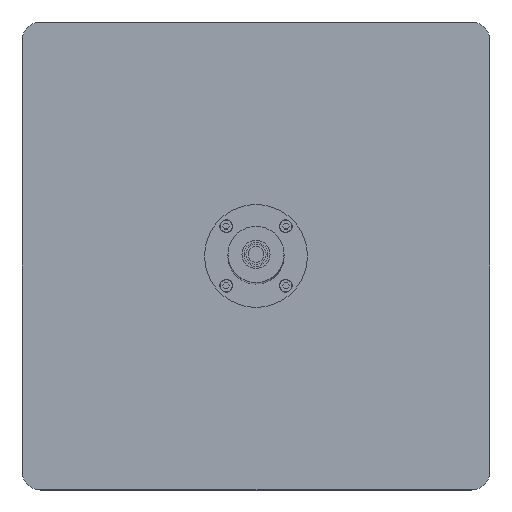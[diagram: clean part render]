
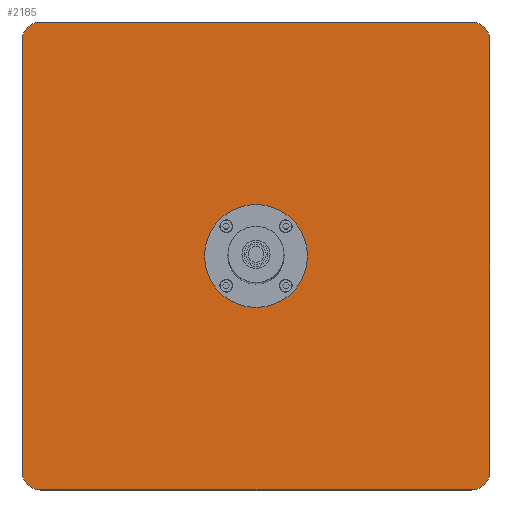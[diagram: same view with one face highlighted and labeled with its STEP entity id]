
A CAD part, top view. The second image highlights one B-rep face of the part: STEP entity #2185.
In plain terms, the highlighted planar face has unit normal (0, 0, 1).
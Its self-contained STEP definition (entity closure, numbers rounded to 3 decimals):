
#2069 = EDGE_CURVE('',#2070,#2072,#2074,.T.);
#2070 = VERTEX_POINT('',#2071);
#2071 = CARTESIAN_POINT('',(694.,-230.,-705.));
#2072 = VERTEX_POINT('',#2073);
#2073 = CARTESIAN_POINT('',(694.,230.,-705.));
#2074 = SURFACE_CURVE('',#2075,(#2079,#2091),.PCURVE_S1.);
#2075 = LINE('',#2076,#2077);
#2076 = CARTESIAN_POINT('',(694.,-250.,-705.));
#2077 = VECTOR('',#2078,1.);
#2078 = DIRECTION('',(0.,1.,0.));
#2079 = PCURVE('',#2080,#2085);
#2080 = PLANE('',#2081);
#2081 = AXIS2_PLACEMENT_3D('',#2082,#2083,#2084);
#2082 = CARTESIAN_POINT('',(694.,-250.,-720.));
#2083 = DIRECTION('',(1.,0.,0.));
#2084 = DIRECTION('',(0.,0.,1.));
#2085 = DEFINITIONAL_REPRESENTATION('',(#2086),#2090);
#2086 = LINE('',#2087,#2088);
#2087 = CARTESIAN_POINT('',(15.,0.));
#2088 = VECTOR('',#2089,1.);
#2089 = DIRECTION('',(0.,-1.));
#2090 = ( GEOMETRIC_REPRESENTATION_CONTEXT(2) 
PARAMETRIC_REPRESENTATION_CONTEXT() REPRESENTATION_CONTEXT('2D SPACE',''
  ) );
#2091 = PCURVE('',#2092,#2097);
#2092 = PLANE('',#2093);
#2093 = AXIS2_PLACEMENT_3D('',#2094,#2095,#2096);
#2094 = CARTESIAN_POINT('',(694.,-250.,-705.));
#2095 = DIRECTION('',(0.,0.,1.));
#2096 = DIRECTION('',(1.,0.,0.));
#2097 = DEFINITIONAL_REPRESENTATION('',(#2098),#2102);
#2098 = LINE('',#2099,#2100);
#2099 = CARTESIAN_POINT('',(0.,0.));
#2100 = VECTOR('',#2101,1.);
#2101 = DIRECTION('',(0.,1.));
#2102 = ( GEOMETRIC_REPRESENTATION_CONTEXT(2) 
PARAMETRIC_REPRESENTATION_CONTEXT() REPRESENTATION_CONTEXT('2D SPACE',''
  ) );
#2120 = CYLINDRICAL_SURFACE('',#2121,20.);
#2121 = AXIS2_PLACEMENT_3D('',#2122,#2123,#2124);
#2122 = CARTESIAN_POINT('',(714.,-230.,-720.));
#2123 = DIRECTION('',(0.,0.,1.));
#2124 = DIRECTION('',(-1.,-0.,0.));
#2174 = CYLINDRICAL_SURFACE('',#2175,20.);
#2175 = AXIS2_PLACEMENT_3D('',#2176,#2177,#2178);
#2176 = CARTESIAN_POINT('',(714.,230.,-720.));
#2177 = DIRECTION('',(0.,0.,1.));
#2178 = DIRECTION('',(-1.,-0.,0.));
#2185 = ADVANCED_FACE('',(#2186),#2092,.T.);
#2186 = FACE_BOUND('',#2187,.T.);
#2187 = EDGE_LOOP('',(#2188,#2189,#2213,#2241,#2274,#2302,#2331,#2359));
#2188 = ORIENTED_EDGE('',*,*,#2069,.F.);
#2189 = ORIENTED_EDGE('',*,*,#2190,.T.);
#2190 = EDGE_CURVE('',#2070,#2191,#2193,.T.);
#2191 = VERTEX_POINT('',#2192);
#2192 = CARTESIAN_POINT('',(714.,-250.,-705.));
#2193 = SURFACE_CURVE('',#2194,(#2199,#2206),.PCURVE_S1.);
#2194 = CIRCLE('',#2195,20.);
#2195 = AXIS2_PLACEMENT_3D('',#2196,#2197,#2198);
#2196 = CARTESIAN_POINT('',(714.,-230.,-705.));
#2197 = DIRECTION('',(0.,0.,1.));
#2198 = DIRECTION('',(0.,-1.,0.));
#2199 = PCURVE('',#2092,#2200);
#2200 = DEFINITIONAL_REPRESENTATION('',(#2201),#2205);
#2201 = CIRCLE('',#2202,20.);
#2202 = AXIS2_PLACEMENT_2D('',#2203,#2204);
#2203 = CARTESIAN_POINT('',(20.,20.));
#2204 = DIRECTION('',(0.,-1.));
#2205 = ( GEOMETRIC_REPRESENTATION_CONTEXT(2) 
PARAMETRIC_REPRESENTATION_CONTEXT() REPRESENTATION_CONTEXT('2D SPACE',''
  ) );
#2206 = PCURVE('',#2120,#2207);
#2207 = DEFINITIONAL_REPRESENTATION('',(#2208),#2212);
#2208 = LINE('',#2209,#2210);
#2209 = CARTESIAN_POINT('',(-4.712,15.));
#2210 = VECTOR('',#2211,1.);
#2211 = DIRECTION('',(1.,0.));
#2212 = ( GEOMETRIC_REPRESENTATION_CONTEXT(2) 
PARAMETRIC_REPRESENTATION_CONTEXT() REPRESENTATION_CONTEXT('2D SPACE',''
  ) );
#2213 = ORIENTED_EDGE('',*,*,#2214,.T.);
#2214 = EDGE_CURVE('',#2191,#2215,#2217,.T.);
#2215 = VERTEX_POINT('',#2216);
#2216 = CARTESIAN_POINT('',(1174.,-250.,-705.));
#2217 = SURFACE_CURVE('',#2218,(#2222,#2229),.PCURVE_S1.);
#2218 = LINE('',#2219,#2220);
#2219 = CARTESIAN_POINT('',(694.,-250.,-705.));
#2220 = VECTOR('',#2221,1.);
#2221 = DIRECTION('',(1.,0.,0.));
#2222 = PCURVE('',#2092,#2223);
#2223 = DEFINITIONAL_REPRESENTATION('',(#2224),#2228);
#2224 = LINE('',#2225,#2226);
#2225 = CARTESIAN_POINT('',(0.,0.));
#2226 = VECTOR('',#2227,1.);
#2227 = DIRECTION('',(1.,0.));
#2228 = ( GEOMETRIC_REPRESENTATION_CONTEXT(2) 
PARAMETRIC_REPRESENTATION_CONTEXT() REPRESENTATION_CONTEXT('2D SPACE',''
  ) );
#2229 = PCURVE('',#2230,#2235);
#2230 = PLANE('',#2231);
#2231 = AXIS2_PLACEMENT_3D('',#2232,#2233,#2234);
#2232 = CARTESIAN_POINT('',(694.,-250.,-720.));
#2233 = DIRECTION('',(0.,1.,0.));
#2234 = DIRECTION('',(0.,0.,1.));
#2235 = DEFINITIONAL_REPRESENTATION('',(#2236),#2240);
#2236 = LINE('',#2237,#2238);
#2237 = CARTESIAN_POINT('',(15.,0.));
#2238 = VECTOR('',#2239,1.);
#2239 = DIRECTION('',(0.,1.));
#2240 = ( GEOMETRIC_REPRESENTATION_CONTEXT(2) 
PARAMETRIC_REPRESENTATION_CONTEXT() REPRESENTATION_CONTEXT('2D SPACE',''
  ) );
#2241 = ORIENTED_EDGE('',*,*,#2242,.F.);
#2242 = EDGE_CURVE('',#2243,#2215,#2245,.T.);
#2243 = VERTEX_POINT('',#2244);
#2244 = CARTESIAN_POINT('',(1194.,-230.,-705.));
#2245 = SURFACE_CURVE('',#2246,(#2251,#2262),.PCURVE_S1.);
#2246 = CIRCLE('',#2247,20.);
#2247 = AXIS2_PLACEMENT_3D('',#2248,#2249,#2250);
#2248 = CARTESIAN_POINT('',(1174.,-230.,-705.));
#2249 = DIRECTION('',(-0.,-0.,-1.));
#2250 = DIRECTION('',(0.,-1.,0.));
#2251 = PCURVE('',#2092,#2252);
#2252 = DEFINITIONAL_REPRESENTATION('',(#2253),#2261);
#2253 = ( BOUNDED_CURVE() B_SPLINE_CURVE(2,(#2254,#2255,#2256,#2257,
#2258,#2259,#2260),.UNSPECIFIED.,.T.,.F.) B_SPLINE_CURVE_WITH_KNOTS((1,2
    ,2,2,2,1),(-2.094,0.,2.094,4.189,
6.283,8.378),.UNSPECIFIED.) CURVE() 
GEOMETRIC_REPRESENTATION_ITEM() RATIONAL_B_SPLINE_CURVE((1.,0.5,1.,0.5,
1.,0.5,1.)) REPRESENTATION_ITEM('') );
#2254 = CARTESIAN_POINT('',(480.,0.));
#2255 = CARTESIAN_POINT('',(445.359,0.));
#2256 = CARTESIAN_POINT('',(462.679,30.));
#2257 = CARTESIAN_POINT('',(480.,60.));
#2258 = CARTESIAN_POINT('',(497.321,30.));
#2259 = CARTESIAN_POINT('',(514.641,0.));
#2260 = CARTESIAN_POINT('',(480.,0.));
#2261 = ( GEOMETRIC_REPRESENTATION_CONTEXT(2) 
PARAMETRIC_REPRESENTATION_CONTEXT() REPRESENTATION_CONTEXT('2D SPACE',''
  ) );
#2262 = PCURVE('',#2263,#2268);
#2263 = CYLINDRICAL_SURFACE('',#2264,20.);
#2264 = AXIS2_PLACEMENT_3D('',#2265,#2266,#2267);
#2265 = CARTESIAN_POINT('',(1174.,-230.,-720.));
#2266 = DIRECTION('',(0.,0.,1.));
#2267 = DIRECTION('',(1.,0.,-0.));
#2268 = DEFINITIONAL_REPRESENTATION('',(#2269),#2273);
#2269 = LINE('',#2270,#2271);
#2270 = CARTESIAN_POINT('',(4.712,15.));
#2271 = VECTOR('',#2272,1.);
#2272 = DIRECTION('',(-1.,0.));
#2273 = ( GEOMETRIC_REPRESENTATION_CONTEXT(2) 
PARAMETRIC_REPRESENTATION_CONTEXT() REPRESENTATION_CONTEXT('2D SPACE',''
  ) );
#2274 = ORIENTED_EDGE('',*,*,#2275,.T.);
#2275 = EDGE_CURVE('',#2243,#2276,#2278,.T.);
#2276 = VERTEX_POINT('',#2277);
#2277 = CARTESIAN_POINT('',(1194.,230.,-705.));
#2278 = SURFACE_CURVE('',#2279,(#2283,#2290),.PCURVE_S1.);
#2279 = LINE('',#2280,#2281);
#2280 = CARTESIAN_POINT('',(1194.,-250.,-705.));
#2281 = VECTOR('',#2282,1.);
#2282 = DIRECTION('',(0.,1.,0.));
#2283 = PCURVE('',#2092,#2284);
#2284 = DEFINITIONAL_REPRESENTATION('',(#2285),#2289);
#2285 = LINE('',#2286,#2287);
#2286 = CARTESIAN_POINT('',(500.,0.));
#2287 = VECTOR('',#2288,1.);
#2288 = DIRECTION('',(0.,1.));
#2289 = ( GEOMETRIC_REPRESENTATION_CONTEXT(2) 
PARAMETRIC_REPRESENTATION_CONTEXT() REPRESENTATION_CONTEXT('2D SPACE',''
  ) );
#2290 = PCURVE('',#2291,#2296);
#2291 = PLANE('',#2292);
#2292 = AXIS2_PLACEMENT_3D('',#2293,#2294,#2295);
#2293 = CARTESIAN_POINT('',(1194.,-250.,-720.));
#2294 = DIRECTION('',(1.,0.,0.));
#2295 = DIRECTION('',(0.,0.,1.));
#2296 = DEFINITIONAL_REPRESENTATION('',(#2297),#2301);
#2297 = LINE('',#2298,#2299);
#2298 = CARTESIAN_POINT('',(15.,0.));
#2299 = VECTOR('',#2300,1.);
#2300 = DIRECTION('',(0.,-1.));
#2301 = ( GEOMETRIC_REPRESENTATION_CONTEXT(2) 
PARAMETRIC_REPRESENTATION_CONTEXT() REPRESENTATION_CONTEXT('2D SPACE',''
  ) );
#2302 = ORIENTED_EDGE('',*,*,#2303,.T.);
#2303 = EDGE_CURVE('',#2276,#2304,#2306,.T.);
#2304 = VERTEX_POINT('',#2305);
#2305 = CARTESIAN_POINT('',(1174.,250.,-705.));
#2306 = SURFACE_CURVE('',#2307,(#2312,#2319),.PCURVE_S1.);
#2307 = CIRCLE('',#2308,20.);
#2308 = AXIS2_PLACEMENT_3D('',#2309,#2310,#2311);
#2309 = CARTESIAN_POINT('',(1174.,230.,-705.));
#2310 = DIRECTION('',(0.,0.,1.));
#2311 = DIRECTION('',(0.,-1.,0.));
#2312 = PCURVE('',#2092,#2313);
#2313 = DEFINITIONAL_REPRESENTATION('',(#2314),#2318);
#2314 = CIRCLE('',#2315,20.);
#2315 = AXIS2_PLACEMENT_2D('',#2316,#2317);
#2316 = CARTESIAN_POINT('',(480.,480.));
#2317 = DIRECTION('',(0.,-1.));
#2318 = ( GEOMETRIC_REPRESENTATION_CONTEXT(2) 
PARAMETRIC_REPRESENTATION_CONTEXT() REPRESENTATION_CONTEXT('2D SPACE',''
  ) );
#2319 = PCURVE('',#2320,#2325);
#2320 = CYLINDRICAL_SURFACE('',#2321,20.);
#2321 = AXIS2_PLACEMENT_3D('',#2322,#2323,#2324);
#2322 = CARTESIAN_POINT('',(1174.,230.,-720.));
#2323 = DIRECTION('',(0.,0.,1.));
#2324 = DIRECTION('',(1.,0.,-0.));
#2325 = DEFINITIONAL_REPRESENTATION('',(#2326),#2330);
#2326 = LINE('',#2327,#2328);
#2327 = CARTESIAN_POINT('',(-1.571,15.));
#2328 = VECTOR('',#2329,1.);
#2329 = DIRECTION('',(1.,0.));
#2330 = ( GEOMETRIC_REPRESENTATION_CONTEXT(2) 
PARAMETRIC_REPRESENTATION_CONTEXT() REPRESENTATION_CONTEXT('2D SPACE',''
  ) );
#2331 = ORIENTED_EDGE('',*,*,#2332,.F.);
#2332 = EDGE_CURVE('',#2333,#2304,#2335,.T.);
#2333 = VERTEX_POINT('',#2334);
#2334 = CARTESIAN_POINT('',(714.,250.,-705.));
#2335 = SURFACE_CURVE('',#2336,(#2340,#2347),.PCURVE_S1.);
#2336 = LINE('',#2337,#2338);
#2337 = CARTESIAN_POINT('',(694.,250.,-705.));
#2338 = VECTOR('',#2339,1.);
#2339 = DIRECTION('',(1.,0.,0.));
#2340 = PCURVE('',#2092,#2341);
#2341 = DEFINITIONAL_REPRESENTATION('',(#2342),#2346);
#2342 = LINE('',#2343,#2344);
#2343 = CARTESIAN_POINT('',(0.,500.));
#2344 = VECTOR('',#2345,1.);
#2345 = DIRECTION('',(1.,0.));
#2346 = ( GEOMETRIC_REPRESENTATION_CONTEXT(2) 
PARAMETRIC_REPRESENTATION_CONTEXT() REPRESENTATION_CONTEXT('2D SPACE',''
  ) );
#2347 = PCURVE('',#2348,#2353);
#2348 = PLANE('',#2349);
#2349 = AXIS2_PLACEMENT_3D('',#2350,#2351,#2352);
#2350 = CARTESIAN_POINT('',(694.,250.,-720.));
#2351 = DIRECTION('',(0.,1.,0.));
#2352 = DIRECTION('',(0.,0.,1.));
#2353 = DEFINITIONAL_REPRESENTATION('',(#2354),#2358);
#2354 = LINE('',#2355,#2356);
#2355 = CARTESIAN_POINT('',(15.,0.));
#2356 = VECTOR('',#2357,1.);
#2357 = DIRECTION('',(0.,1.));
#2358 = ( GEOMETRIC_REPRESENTATION_CONTEXT(2) 
PARAMETRIC_REPRESENTATION_CONTEXT() REPRESENTATION_CONTEXT('2D SPACE',''
  ) );
#2359 = ORIENTED_EDGE('',*,*,#2360,.F.);
#2360 = EDGE_CURVE('',#2072,#2333,#2361,.T.);
#2361 = SURFACE_CURVE('',#2362,(#2367,#2378),.PCURVE_S1.);
#2362 = CIRCLE('',#2363,20.);
#2363 = AXIS2_PLACEMENT_3D('',#2364,#2365,#2366);
#2364 = CARTESIAN_POINT('',(714.,230.,-705.));
#2365 = DIRECTION('',(-0.,-0.,-1.));
#2366 = DIRECTION('',(0.,-1.,0.));
#2367 = PCURVE('',#2092,#2368);
#2368 = DEFINITIONAL_REPRESENTATION('',(#2369),#2377);
#2369 = ( BOUNDED_CURVE() B_SPLINE_CURVE(2,(#2370,#2371,#2372,#2373,
#2374,#2375,#2376),.UNSPECIFIED.,.T.,.F.) B_SPLINE_CURVE_WITH_KNOTS((1,2
    ,2,2,2,1),(-2.094,0.,2.094,4.189,
6.283,8.378),.UNSPECIFIED.) CURVE() 
GEOMETRIC_REPRESENTATION_ITEM() RATIONAL_B_SPLINE_CURVE((1.,0.5,1.,0.5,
1.,0.5,1.)) REPRESENTATION_ITEM('') );
#2370 = CARTESIAN_POINT('',(20.,460.));
#2371 = CARTESIAN_POINT('',(-14.641,460.));
#2372 = CARTESIAN_POINT('',(2.679,490.));
#2373 = CARTESIAN_POINT('',(20.,520.));
#2374 = CARTESIAN_POINT('',(37.321,490.));
#2375 = CARTESIAN_POINT('',(54.641,460.));
#2376 = CARTESIAN_POINT('',(20.,460.));
#2377 = ( GEOMETRIC_REPRESENTATION_CONTEXT(2) 
PARAMETRIC_REPRESENTATION_CONTEXT() REPRESENTATION_CONTEXT('2D SPACE',''
  ) );
#2378 = PCURVE('',#2174,#2379);
#2379 = DEFINITIONAL_REPRESENTATION('',(#2380),#2384);
#2380 = LINE('',#2381,#2382);
#2381 = CARTESIAN_POINT('',(1.571,15.));
#2382 = VECTOR('',#2383,1.);
#2383 = DIRECTION('',(-1.,0.));
#2384 = ( GEOMETRIC_REPRESENTATION_CONTEXT(2) 
PARAMETRIC_REPRESENTATION_CONTEXT() REPRESENTATION_CONTEXT('2D SPACE',''
  ) );
